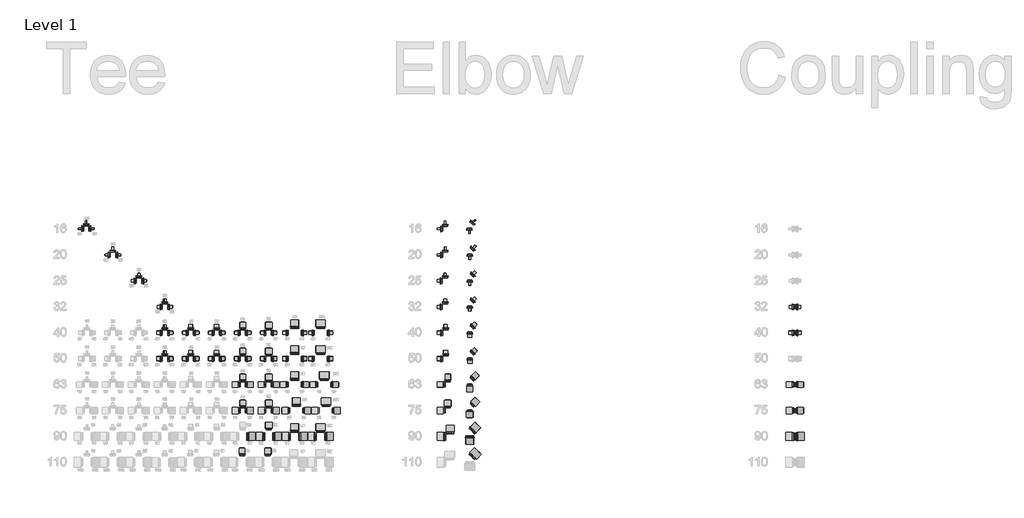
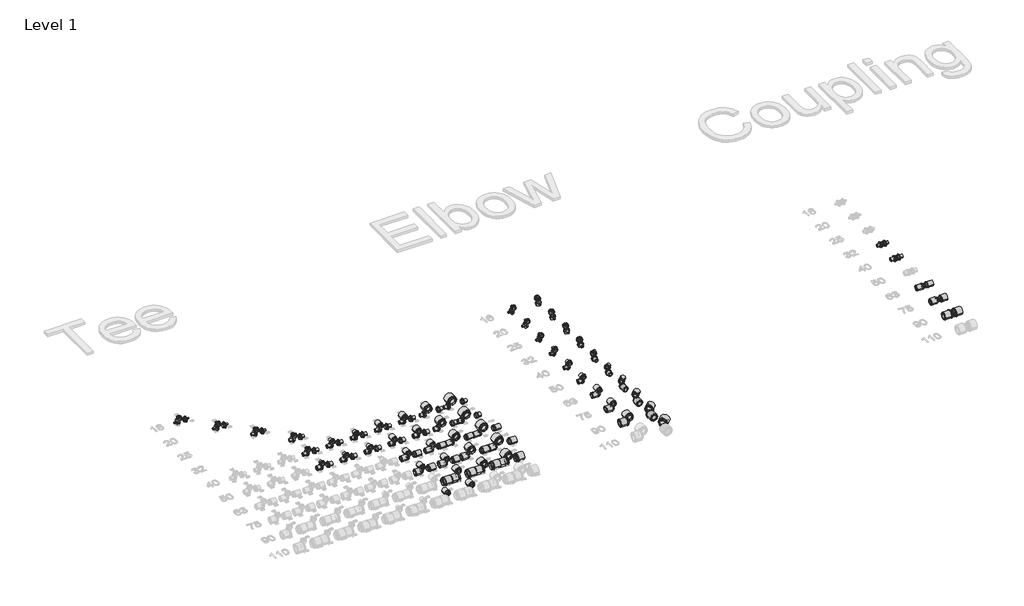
# One storey, part 3 of 58: 137 pipe fittings.
"""IFC4 building model written with IfcOpenShell, lengths in millimetres."""

from ifc_helpers import new_model, si_unit, origin, place, context, project, spatial, transform, mapped, element, save
from components import rs_adapter_8da40ca7, rs_adapter_b4bbd465, rs_adapter_f82712ed, rs_adapter_ef84fdb0, rs_adapter_c6cd646c, rs_adapter_ed761ce0, rs_adapter_634e7d73, rs_adapter_fc67200b, rs_adapter_b700a1d7, rs_adapter_1ad0a11d

model = new_model("IFC4")

# Units and contexts
model_context = context("Model", 3, world=origin())
ifc_project = project(units=[si_unit("LENGTHUNIT", "METRE", prefix="MILLI")], contexts=[model_context])

# Site, building, storey
site = spatial("IfcSite", under=ifc_project)
building = spatial("IfcBuilding", under=site)
storey = spatial("IfcBuildingStorey", under=building, Name="Level 1", Elevation=27.3876384)

# Pipe fittings
placement = place(None, origin())
rs_adapter_shape = rs_adapter_8da40ca7(model_context)
element("IfcPipeFitting", 1, ObjectType="RS Adapter : Superpipe RS Press Adapter", at=placement, inside=storey, context=model_context, shape_type="MappedRepresentation", body=[
    mapped(rs_adapter_shape, transform((15965.8568613, 16294.8081159, 27.3876384), x_axis=(0.0, 1.0000000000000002, 0.0), y_axis=(1.0000000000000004, 0.0, 0.0), z_axis=(0.0, 0.0, -1.0000000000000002))),
])
element("IfcPipeFitting", 2, ObjectType="RS Adapter : Superpipe RS Press Adapter", at=placement, inside=storey, context=model_context, shape_type="MappedRepresentation", body=[
    mapped(rs_adapter_shape, transform((15965.8568613, 17494.8081159, 27.3876384), x_axis=(0.0, 1.0000000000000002, 0.0), y_axis=(1.0000000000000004, 0.0, 0.0), z_axis=(0.0, 0.0, -1.0000000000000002))),
])
element("IfcPipeFitting", 3, ObjectType="RS Adapter : Superpipe RS Press Adapter", at=placement, inside=storey, context=model_context, shape_type="MappedRepresentation", body=[
    mapped(rs_adapter_shape, transform((15965.8568613, 17194.8081159, 27.3876384), x_axis=(0.0, 1.0000000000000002, 0.0), y_axis=(1.0000000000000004, 0.0, 0.0), z_axis=(0.0, 0.0, -1.0000000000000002))),
])
element("IfcPipeFitting", 4, ObjectType="RS Adapter : Superpipe RS Press Adapter", at=placement, inside=storey, context=model_context, shape_type="MappedRepresentation", body=[
    mapped(rs_adapter_shape, transform((16007.843642, 16894.8081159, 27.3876384), x_axis=(0.0, 1.0000000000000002, 0.0), y_axis=(1.0000000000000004, 0.0, 0.0), z_axis=(0.0, 0.0, -1.0000000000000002))),
])
element("IfcPipeFitting", 5, ObjectType="RS Adapter : Superpipe RS Press Adapter", at=placement, inside=storey, context=model_context, shape_type="MappedRepresentation", body=[
    mapped(rs_adapter_shape, transform((16027.8568613, 16594.8081159, 27.3876384), x_axis=(0.0, 1.0000000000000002, 0.0), y_axis=(1.0000000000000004, 0.0, 0.0), z_axis=(0.0, 0.0, -1.0000000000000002))),
])
element("IfcPipeFitting", 6, ObjectType="RS Adapter : Superpipe RS Press Adapter", at=placement, inside=storey, context=model_context, shape_type="MappedRepresentation", body=[
    mapped(rs_adapter_shape, transform((17713.0198773, 16009.6140039, 27.3876384), x_axis=(0.7071067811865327, 0.707106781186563, 0.0), y_axis=(-0.7071067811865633, 0.707106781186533, 0.0), z_axis=(0.0, 0.0, 1.0000000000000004))),
])
rs_adapter_2_shape = rs_adapter_b4bbd465(model_context)
element("IfcPipeFitting", 7, ObjectType="RS Adapter : Superpipe RS Press Adapter", at=placement, inside=storey, context=model_context, shape_type="MappedRepresentation", body=[
    mapped(rs_adapter_2_shape, transform((13226.6015571, 18650.4212972, 27.3876384), x_axis=(-1.0, 0.0, 0.0), y_axis=(0.0, 1.0, 0.0), z_axis=(0.0, 0.0, -1.0))),
])
element("IfcPipeFitting", 8, ObjectType="RS Adapter : Superpipe RS Press Adapter", at=placement, inside=storey, context=model_context, shape_type="MappedRepresentation", body=[
    mapped(rs_adapter_2_shape, transform((13257.6015571, 18681.4212972, 27.3876384), x_axis=(0.0, 1.0000000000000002, 0.0), y_axis=(1.0000000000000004, 0.0, 0.0), z_axis=(0.0, 0.0, -1.0000000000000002))),
])
element("IfcPipeFitting", 9, ObjectType="RS Adapter : Superpipe RS Press Adapter", at=placement, inside=storey, context=model_context, shape_type="MappedRepresentation", body=[
    mapped(rs_adapter_2_shape, transform((13288.6015571, 18650.4212972, 27.3876384), x_axis=(1.0000000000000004, 0.0, 0.0), y_axis=(0.0, -1.0000000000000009, 0.0), z_axis=(0.0, 0.0, -1.0000000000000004))),
])
element("IfcPipeFitting", 10, ObjectType="RS Adapter : Superpipe RS Press Adapter", at=placement, inside=storey, context=model_context, shape_type="MappedRepresentation", body=[
    mapped(rs_adapter_2_shape, transform((17405.8568613, 18677.8081159, 27.3876384), x_axis=(0.0, 1.000000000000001, 0.0), y_axis=(-1.0000000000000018, 0.0, 0.0), z_axis=(0.0, 0.0, 1.0000000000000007))),
])
element("IfcPipeFitting", 11, ObjectType="RS Adapter : Superpipe RS Press Adapter", at=placement, inside=storey, context=model_context, shape_type="MappedRepresentation", body=[
    mapped(rs_adapter_2_shape, transform((17374.8568613, 18646.8081159, 27.3876384), x_axis=(-1.0000000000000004, 0.0, 0.0), y_axis=(0.0, -1.0000000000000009, 0.0), z_axis=(0.0, 0.0, 1.0000000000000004))),
])
element("IfcPipeFitting", 12, ObjectType="RS Adapter : Superpipe RS Press Adapter", at=placement, inside=storey, context=model_context, shape_type="MappedRepresentation", body=[
    mapped(rs_adapter_2_shape, transform((17685.7955265, 18654.8896532, 27.3876384), x_axis=(0.0, -1.000000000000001, 0.0), y_axis=(1.0000000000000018, 0.0, 0.0), z_axis=(0.0, 0.0, 1.0000000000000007))),
])
element("IfcPipeFitting", 13, ObjectType="RS Adapter : Superpipe RS Press Adapter", at=placement, inside=storey, context=model_context, shape_type="MappedRepresentation", body=[
    mapped(rs_adapter_2_shape, transform((17709.5198773, 18709.6140039, 27.3876384), x_axis=(0.7071067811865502, 0.7071067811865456, 0.0), y_axis=(-0.7071067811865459, 0.7071067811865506, 0.0), z_axis=(0.0, 0.0, 1.0000000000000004))),
])
rs_adapter_3_shape = rs_adapter_f82712ed(model_context)
element("IfcPipeFitting", 14, ObjectType="RS Adapter : Superpipe RS Press Adapter", at=placement, inside=storey, context=model_context, shape_type="MappedRepresentation", body=[
    mapped(rs_adapter_3_shape, transform((13534.8568613, 18346.8081159, 27.3876384), x_axis=(-1.0, 0.0, 0.0), y_axis=(0.0, 1.0, 0.0), z_axis=(0.0, 0.0, -1.0))),
])
element("IfcPipeFitting", 15, ObjectType="RS Adapter : Superpipe RS Press Adapter", at=placement, inside=storey, context=model_context, shape_type="MappedRepresentation", body=[
    mapped(rs_adapter_3_shape, transform((13565.8568613, 18377.8081159, 27.3876384), x_axis=(0.0, 1.0000000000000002, 0.0), y_axis=(1.0000000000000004, 0.0, 0.0), z_axis=(0.0, 0.0, -1.0000000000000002))),
])
element("IfcPipeFitting", 16, ObjectType="RS Adapter : Superpipe RS Press Adapter", at=placement, inside=storey, context=model_context, shape_type="MappedRepresentation", body=[
    mapped(rs_adapter_3_shape, transform((13596.8568613, 18346.8081159, 27.3876384), x_axis=(1.0000000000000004, 0.0, 0.0), y_axis=(0.0, -1.0000000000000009, 0.0), z_axis=(0.0, 0.0, -1.0000000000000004))),
])
element("IfcPipeFitting", 17, ObjectType="RS Adapter : Superpipe RS Press Adapter", at=placement, inside=storey, context=model_context, shape_type="MappedRepresentation", body=[
    mapped(rs_adapter_3_shape, transform((17406.8568613, 18377.8081159, 27.3876384), x_axis=(0.0, 1.000000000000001, 0.0), y_axis=(-1.0000000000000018, 0.0, 0.0), z_axis=(0.0, 0.0, 1.0000000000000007))),
])
element("IfcPipeFitting", 18, ObjectType="RS Adapter : Superpipe RS Press Adapter", at=placement, inside=storey, context=model_context, shape_type="MappedRepresentation", body=[
    mapped(rs_adapter_3_shape, transform((17375.8568613, 18346.8081159, 27.3876384), x_axis=(-1.0000000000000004, 0.0, 0.0), y_axis=(0.0, -1.0000000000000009, 0.0), z_axis=(0.0, 0.0, 1.0000000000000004))),
])
element("IfcPipeFitting", 19, ObjectType="RS Adapter : Superpipe RS Press Adapter", at=placement, inside=storey, context=model_context, shape_type="MappedRepresentation", body=[
    mapped(rs_adapter_3_shape, transform((17689.2955265, 18354.8896532, 27.3876384), x_axis=(0.0, -1.000000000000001, 0.0), y_axis=(1.0000000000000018, 0.0, 0.0), z_axis=(0.0, 0.0, 1.0000000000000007))),
])
element("IfcPipeFitting", 20, ObjectType="RS Adapter : Superpipe RS Press Adapter", at=placement, inside=storey, context=model_context, shape_type="MappedRepresentation", body=[
    mapped(rs_adapter_3_shape, transform((17713.0198773, 18409.6140039, 27.3876384), x_axis=(0.7071067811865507, 0.7071067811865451, 0.0), y_axis=(-0.7071067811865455, 0.707106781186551, 0.0), z_axis=(0.0, 0.0, 1.0000000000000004))),
])
rs_adapter_4_shape = rs_adapter_ef84fdb0(model_context)
element("IfcPipeFitting", 21, ObjectType="RS Adapter : Superpipe RS Press Adapter", at=placement, inside=storey, context=model_context, shape_type="MappedRepresentation", body=[
    mapped(rs_adapter_4_shape, transform((13834.8568613, 18046.8081159, 27.3876384), x_axis=(-1.0, 0.0, 0.0), y_axis=(0.0, 1.0, 0.0), z_axis=(0.0, 0.0, -1.0))),
])
element("IfcPipeFitting", 22, ObjectType="RS Adapter : Superpipe RS Press Adapter", at=placement, inside=storey, context=model_context, shape_type="MappedRepresentation", body=[
    mapped(rs_adapter_4_shape, transform((13865.8568613, 18077.8081159, 27.3876384), x_axis=(0.0, 1.0000000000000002, 0.0), y_axis=(1.0000000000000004, 0.0, 0.0), z_axis=(0.0, 0.0, -1.0000000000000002))),
])
element("IfcPipeFitting", 23, ObjectType="RS Adapter : Superpipe RS Press Adapter", at=placement, inside=storey, context=model_context, shape_type="MappedRepresentation", body=[
    mapped(rs_adapter_4_shape, transform((13896.8568613, 18046.8081159, 27.3876384), x_axis=(1.0000000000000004, 0.0, 0.0), y_axis=(0.0, -1.0000000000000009, 0.0), z_axis=(0.0, 0.0, -1.0000000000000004))),
])
element("IfcPipeFitting", 24, ObjectType="RS Adapter : Superpipe RS Press Adapter", at=placement, inside=storey, context=model_context, shape_type="MappedRepresentation", body=[
    mapped(rs_adapter_4_shape, transform((17403.8568613, 18077.8081159, 27.3876384), x_axis=(0.0, 1.000000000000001, 0.0), y_axis=(-1.0000000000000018, 0.0, 0.0), z_axis=(0.0, 0.0, 1.0000000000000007))),
])
element("IfcPipeFitting", 25, ObjectType="RS Adapter : Superpipe RS Press Adapter", at=placement, inside=storey, context=model_context, shape_type="MappedRepresentation", body=[
    mapped(rs_adapter_4_shape, transform((17372.8568613, 18046.8081159, 27.3876384), x_axis=(-1.0000000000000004, 0.0, 0.0), y_axis=(0.0, -1.0000000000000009, 0.0), z_axis=(0.0, 0.0, 1.0000000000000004))),
])
element("IfcPipeFitting", 26, ObjectType="RS Adapter : Superpipe RS Press Adapter", at=placement, inside=storey, context=model_context, shape_type="MappedRepresentation", body=[
    mapped(rs_adapter_4_shape, transform((17689.2955265, 18054.8896532, 27.3876384), x_axis=(0.0, -1.0000000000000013, 0.0), y_axis=(1.0000000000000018, 0.0, 0.0), z_axis=(0.0, 0.0, 1.0000000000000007))),
])
element("IfcPipeFitting", 27, ObjectType="RS Adapter : Superpipe RS Press Adapter", at=placement, inside=storey, context=model_context, shape_type="MappedRepresentation", body=[
    mapped(rs_adapter_4_shape, transform((17713.0198773, 18109.6140039, 27.3876384), x_axis=(0.7071067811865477, 0.7071067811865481, 0.0), y_axis=(-0.7071067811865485, 0.707106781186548, 0.0), z_axis=(0.0, 0.0, 1.0000000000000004))),
])
rs_adapter_5_shape = rs_adapter_c6cd646c(model_context)
element("IfcPipeFitting", 28, ObjectType="RS Adapter : Superpipe RS Press Adapter", at=placement, inside=storey, context=model_context, shape_type="MappedRepresentation", body=[
    mapped(rs_adapter_5_shape, transform((15113.8568613, 16246.8081159, 27.3876384), x_axis=(1.0000000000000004, 0.0, 0.0), y_axis=(0.0, -1.0000000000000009, 0.0), z_axis=(0.0, 0.0, -1.0000000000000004))),
])
element("IfcPipeFitting", 29, ObjectType="RS Adapter : Superpipe RS Press Adapter", at=placement, inside=storey, context=model_context, shape_type="MappedRepresentation", body=[
    mapped(rs_adapter_5_shape, transform((15317.8568613, 16246.8081159, 27.3876384), x_axis=(-1.0, 0.0, 0.0), y_axis=(0.0, 1.0, 0.0), z_axis=(0.0, 0.0, -1.0))),
])
element("IfcPipeFitting", 30, ObjectType="RS Adapter : Superpipe RS Press Adapter", at=placement, inside=storey, context=model_context, shape_type="MappedRepresentation", body=[
    mapped(rs_adapter_5_shape, transform((15413.8568613, 16246.8081159, 27.3876384), x_axis=(1.0000000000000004, 0.0, 0.0), y_axis=(0.0, -1.0000000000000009, 0.0), z_axis=(0.0, 0.0, -1.0000000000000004))),
])
element("IfcPipeFitting", 31, ObjectType="RS Adapter : Superpipe RS Press Adapter", at=placement, inside=storey, context=model_context, shape_type="MappedRepresentation", body=[
    mapped(rs_adapter_5_shape, transform((15617.8568613, 16246.8081159, 27.3876384), x_axis=(-1.0, 0.0, 0.0), y_axis=(0.0, 1.0, 0.0), z_axis=(0.0, 0.0, -1.0))),
])
element("IfcPipeFitting", 32, ObjectType="RS Adapter : Superpipe RS Press Adapter", at=placement, inside=storey, context=model_context, shape_type="MappedRepresentation", body=[
    mapped(rs_adapter_5_shape, transform((15665.8568613, 16294.8081159, 27.3876384), x_axis=(0.0, 1.0000000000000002, 0.0), y_axis=(1.0000000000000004, 0.0, 0.0), z_axis=(0.0, 0.0, -1.0000000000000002))),
])
element("IfcPipeFitting", 33, ObjectType="RS Adapter : Superpipe RS Press Adapter", at=placement, inside=storey, context=model_context, shape_type="MappedRepresentation", body=[
    mapped(rs_adapter_5_shape, transform((15713.8568613, 16246.8081159, 27.3876384), x_axis=(1.0000000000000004, 0.0, 0.0), y_axis=(0.0, -1.0000000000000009, 0.0), z_axis=(0.0, 0.0, -1.0000000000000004))),
])
element("IfcPipeFitting", 34, ObjectType="RS Adapter : Superpipe RS Press Adapter", at=placement, inside=storey, context=model_context, shape_type="MappedRepresentation", body=[
    mapped(rs_adapter_5_shape, transform((15917.8568613, 16246.8081159, 27.3876384), x_axis=(-1.0, 0.0, 0.0), y_axis=(0.0, 1.0, 0.0), z_axis=(0.0, 0.0, -1.0))),
])
element("IfcPipeFitting", 35, ObjectType="RS Adapter : Superpipe RS Press Adapter", at=placement, inside=storey, context=model_context, shape_type="MappedRepresentation", body=[
    mapped(rs_adapter_5_shape, transform((16013.8568613, 16246.8081159, 27.3876384), x_axis=(1.0000000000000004, 0.0, 0.0), y_axis=(0.0, -1.0000000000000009, 0.0), z_axis=(0.0, 0.0, -1.0000000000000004))),
])
element("IfcPipeFitting", 36, ObjectType="RS Adapter : Superpipe RS Press Adapter", at=placement, inside=storey, context=model_context, shape_type="MappedRepresentation", body=[
    mapped(rs_adapter_5_shape, transform((15685.8568613, 16594.8081159, 27.3876384), x_axis=(0.0, 1.0000000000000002, 0.0), y_axis=(1.0000000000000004, 0.0, 0.0), z_axis=(0.0, 0.0, -1.0000000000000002))),
])
element("IfcPipeFitting", 37, ObjectType="RS Adapter : Superpipe RS Press Adapter", at=placement, inside=storey, context=model_context, shape_type="MappedRepresentation", body=[
    mapped(rs_adapter_5_shape, transform((15665.8568613, 17494.8081159, 27.3876384), x_axis=(0.0, 1.0000000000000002, 0.0), y_axis=(1.0000000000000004, 0.0, 0.0), z_axis=(0.0, 0.0, -1.0000000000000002))),
])
element("IfcPipeFitting", 38, ObjectType="RS Adapter : Superpipe RS Press Adapter", at=placement, inside=storey, context=model_context, shape_type="MappedRepresentation", body=[
    mapped(rs_adapter_5_shape, transform((15665.8568613, 17194.8081159, 27.3876384), x_axis=(0.0, 1.0000000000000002, 0.0), y_axis=(1.0000000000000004, 0.0, 0.0), z_axis=(0.0, 0.0, -1.0000000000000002))),
])
element("IfcPipeFitting", 39, ObjectType="RS Adapter : Superpipe RS Press Adapter", at=placement, inside=storey, context=model_context, shape_type="MappedRepresentation", body=[
    mapped(rs_adapter_5_shape, transform((15665.8568613, 16894.8081159, 27.3876384), x_axis=(0.0, 1.0000000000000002, 0.0), y_axis=(1.0000000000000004, 0.0, 0.0), z_axis=(0.0, 0.0, -1.0000000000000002))),
])
element("IfcPipeFitting", 40, ObjectType="RS Adapter : Superpipe RS Press Adapter", at=placement, inside=storey, context=model_context, shape_type="MappedRepresentation", body=[
    mapped(rs_adapter_5_shape, transform((21437.9646899, 16246.8081159, 27.3876384), x_axis=(-1.0000000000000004, 0.0, 0.0), y_axis=(0.0, 1.0000000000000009, 0.0), z_axis=(0.0, 0.0, -1.0000000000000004))),
])
element("IfcPipeFitting", 41, ObjectType="RS Adapter : Superpipe RS Press Adapter", at=placement, inside=storey, context=model_context, shape_type="MappedRepresentation", body=[
    mapped(rs_adapter_5_shape, transform((21455.9646899, 16246.8081159, 27.3876384), x_axis=(1.0000000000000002, 0.0, 0.0), y_axis=(0.0, -1.0000000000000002, 0.0), z_axis=(0.0, 0.0, -1.0))),
])
element("IfcPipeFitting", 42, ObjectType="RS Adapter : Superpipe RS Press Adapter", at=placement, inside=storey, context=model_context, shape_type="MappedRepresentation", body=[
    mapped(rs_adapter_5_shape, transform((17461.3568613, 16277.8081159, 27.3876384), x_axis=(0.0, 1.000000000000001, 0.0), y_axis=(-1.0000000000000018, 0.0, 0.0), z_axis=(0.0, 0.0, 1.0000000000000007))),
])
element("IfcPipeFitting", 43, ObjectType="RS Adapter : Superpipe RS Press Adapter", at=placement, inside=storey, context=model_context, shape_type="MappedRepresentation", body=[
    mapped(rs_adapter_5_shape, transform((17413.3568613, 16246.8081159, 27.3876384), x_axis=(-1.0000000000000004, 0.0, 0.0), y_axis=(0.0, -1.0000000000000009, 0.0), z_axis=(0.0, 0.0, 1.0000000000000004))),
])
element("IfcPipeFitting", 44, ObjectType="RS Adapter : Superpipe RS Press Adapter", at=placement, inside=storey, context=model_context, shape_type="MappedRepresentation", body=[
    mapped(rs_adapter_5_shape, transform((17689.2955265, 16254.8896532, 27.3876384), x_axis=(0.0, -1.000000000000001, 0.0), y_axis=(1.0000000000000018, 0.0, 0.0), z_axis=(0.0, 0.0, 1.0000000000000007))),
])
element("IfcPipeFitting", 45, ObjectType="RS Adapter : Superpipe RS Press Adapter", at=placement, inside=storey, context=model_context, shape_type="MappedRepresentation", body=[
    mapped(rs_adapter_5_shape, transform((17713.0198773, 16309.6140039, 27.3876384), x_axis=(0.7071067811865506, 0.7071067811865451, 0.0), y_axis=(-0.7071067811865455, 0.7071067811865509, 0.0), z_axis=(0.0, 0.0, 1.0000000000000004))),
])
rs_adapter_6_shape = rs_adapter_ed761ce0(model_context)
element("IfcPipeFitting", 46, ObjectType="RS Adapter : Superpipe RS Press Adapter", at=placement, inside=storey, context=model_context, shape_type="MappedRepresentation", body=[
    mapped(rs_adapter_6_shape, transform((14134.8568613, 17746.8081159, 27.3876384), x_axis=(-1.0, 0.0, 0.0), y_axis=(0.0, 1.0, 0.0), z_axis=(0.0, 0.0, -1.0))),
])
element("IfcPipeFitting", 47, ObjectType="RS Adapter : Superpipe RS Press Adapter", at=placement, inside=storey, context=model_context, shape_type="MappedRepresentation", body=[
    mapped(rs_adapter_6_shape, transform((14165.8568613, 17777.8081159, 27.3876384), x_axis=(0.0, 1.0000000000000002, 0.0), y_axis=(1.0000000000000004, 0.0, 0.0), z_axis=(0.0, 0.0, -1.0000000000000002))),
])
element("IfcPipeFitting", 48, ObjectType="RS Adapter : Superpipe RS Press Adapter", at=placement, inside=storey, context=model_context, shape_type="MappedRepresentation", body=[
    mapped(rs_adapter_6_shape, transform((14196.8568613, 17746.8081159, 27.3876384), x_axis=(1.0000000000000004, 0.0, 0.0), y_axis=(0.0, -1.0000000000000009, 0.0), z_axis=(0.0, 0.0, -1.0000000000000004))),
])
element("IfcPipeFitting", 49, ObjectType="RS Adapter : Superpipe RS Press Adapter", at=placement, inside=storey, context=model_context, shape_type="MappedRepresentation", body=[
    mapped(rs_adapter_6_shape, transform((14165.8568613, 17477.8081159, 27.3876384), x_axis=(0.0, 1.0000000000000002, 0.0), y_axis=(1.0000000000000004, 0.0, 0.0), z_axis=(0.0, 0.0, -1.0000000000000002))),
])
element("IfcPipeFitting", 50, ObjectType="RS Adapter : Superpipe RS Press Adapter", at=placement, inside=storey, context=model_context, shape_type="MappedRepresentation", body=[
    mapped(rs_adapter_6_shape, transform((14165.8568613, 17177.8081159, 27.3876384), x_axis=(0.0, 1.0000000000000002, 0.0), y_axis=(1.0000000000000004, 0.0, 0.0), z_axis=(0.0, 0.0, -1.0000000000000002))),
])
element("IfcPipeFitting", 51, ObjectType="RS Adapter : Superpipe RS Press Adapter", at=placement, inside=storey, context=model_context, shape_type="MappedRepresentation", body=[
    mapped(rs_adapter_6_shape, transform((21455.9646899, 17746.8081159, 27.3876384), x_axis=(1.0000000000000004, 0.0, 0.0), y_axis=(0.0, -1.0000000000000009, 0.0), z_axis=(0.0, 0.0, -1.0000000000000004))),
])
element("IfcPipeFitting", 52, ObjectType="RS Adapter : Superpipe RS Press Adapter", at=placement, inside=storey, context=model_context, shape_type="MappedRepresentation", body=[
    mapped(rs_adapter_6_shape, transform((21437.9646899, 17746.8081159, 27.3876384), x_axis=(-1.0000000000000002, 0.0, 0.0), y_axis=(0.0, 1.0000000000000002, 0.0), z_axis=(0.0, 0.0, -1.0))),
])
element("IfcPipeFitting", 53, ObjectType="RS Adapter : Superpipe RS Press Adapter", at=placement, inside=storey, context=model_context, shape_type="MappedRepresentation", body=[
    mapped(rs_adapter_6_shape, transform((17403.8568613, 17777.8081159, 27.3876384), x_axis=(0.0, 1.000000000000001, 0.0), y_axis=(-1.0000000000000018, 0.0, 0.0), z_axis=(0.0, 0.0, 1.0000000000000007))),
])
element("IfcPipeFitting", 54, ObjectType="RS Adapter : Superpipe RS Press Adapter", at=placement, inside=storey, context=model_context, shape_type="MappedRepresentation", body=[
    mapped(rs_adapter_6_shape, transform((17372.8568613, 17746.8081159, 27.3876384), x_axis=(-1.0000000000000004, 0.0, 0.0), y_axis=(0.0, -1.0000000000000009, 0.0), z_axis=(0.0, 0.0, 1.0000000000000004))),
])
element("IfcPipeFitting", 55, ObjectType="RS Adapter : Superpipe RS Press Adapter", at=placement, inside=storey, context=model_context, shape_type="MappedRepresentation", body=[
    mapped(rs_adapter_6_shape, transform((17689.2955265, 17754.8896532, 27.3876384), x_axis=(0.0, -1.000000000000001, 0.0), y_axis=(1.0000000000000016, 0.0, 0.0), z_axis=(0.0, 0.0, 1.0000000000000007))),
])
element("IfcPipeFitting", 56, ObjectType="RS Adapter : Superpipe RS Press Adapter", at=placement, inside=storey, context=model_context, shape_type="MappedRepresentation", body=[
    mapped(rs_adapter_6_shape, transform((17713.0198773, 17809.6140039, 27.3876384), x_axis=(0.7071067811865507, 0.707106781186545, 0.0), y_axis=(-0.7071067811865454, 0.707106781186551, 0.0), z_axis=(0.0, 0.0, 1.0000000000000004))),
])
rs_adapter_7_shape = rs_adapter_634e7d73(model_context)
element("IfcPipeFitting", 57, ObjectType="RS Adapter : Superpipe RS Press Adapter", at=placement, inside=storey, context=model_context, shape_type="MappedRepresentation", body=[
    mapped(rs_adapter_7_shape, transform((14434.8568613, 17446.8081159, 27.3876384), x_axis=(-1.0, 0.0, 0.0), y_axis=(0.0, 1.0, 0.0), z_axis=(0.0, 0.0, -1.0))),
])
element("IfcPipeFitting", 58, ObjectType="RS Adapter : Superpipe RS Press Adapter", at=placement, inside=storey, context=model_context, shape_type="MappedRepresentation", body=[
    mapped(rs_adapter_7_shape, transform((14465.8568613, 17477.8081159, 27.3876384), x_axis=(0.0, 1.0000000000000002, 0.0), y_axis=(1.0000000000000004, 0.0, 0.0), z_axis=(0.0, 0.0, -1.0000000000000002))),
])
element("IfcPipeFitting", 59, ObjectType="RS Adapter : Superpipe RS Press Adapter", at=placement, inside=storey, context=model_context, shape_type="MappedRepresentation", body=[
    mapped(rs_adapter_7_shape, transform((14496.8568613, 17446.8081159, 27.3876384), x_axis=(1.0000000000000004, 0.0, 0.0), y_axis=(0.0, -1.0000000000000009, 0.0), z_axis=(0.0, 0.0, -1.0000000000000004))),
])
element("IfcPipeFitting", 60, ObjectType="RS Adapter : Superpipe RS Press Adapter", at=placement, inside=storey, context=model_context, shape_type="MappedRepresentation", body=[
    mapped(rs_adapter_7_shape, transform((14134.8568613, 17446.8081159, 27.3876384), x_axis=(-1.0, 0.0, 0.0), y_axis=(0.0, 1.0, 0.0), z_axis=(0.0, 0.0, -1.0))),
])
element("IfcPipeFitting", 61, ObjectType="RS Adapter : Superpipe RS Press Adapter", at=placement, inside=storey, context=model_context, shape_type="MappedRepresentation", body=[
    mapped(rs_adapter_7_shape, transform((14196.8568613, 17446.8081159, 27.3876384), x_axis=(1.0000000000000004, 0.0, 0.0), y_axis=(0.0, -1.0000000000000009, 0.0), z_axis=(0.0, 0.0, -1.0000000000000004))),
])
element("IfcPipeFitting", 62, ObjectType="RS Adapter : Superpipe RS Press Adapter", at=placement, inside=storey, context=model_context, shape_type="MappedRepresentation", body=[
    mapped(rs_adapter_7_shape, transform((14734.8568613, 17446.8081159, 27.3876384), x_axis=(-1.0, 0.0, 0.0), y_axis=(0.0, 1.0, 0.0), z_axis=(0.0, 0.0, -1.0))),
])
element("IfcPipeFitting", 63, ObjectType="RS Adapter : Superpipe RS Press Adapter", at=placement, inside=storey, context=model_context, shape_type="MappedRepresentation", body=[
    mapped(rs_adapter_7_shape, transform((14796.8568613, 17446.8081159, 27.3876384), x_axis=(1.0000000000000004, 0.0, 0.0), y_axis=(0.0, -1.0000000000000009, 0.0), z_axis=(0.0, 0.0, -1.0000000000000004))),
])
element("IfcPipeFitting", 64, ObjectType="RS Adapter : Superpipe RS Press Adapter", at=placement, inside=storey, context=model_context, shape_type="MappedRepresentation", body=[
    mapped(rs_adapter_7_shape, transform((15034.8568613, 17446.8081159, 27.3876384), x_axis=(-1.0, 0.0, 0.0), y_axis=(0.0, 1.0, 0.0), z_axis=(0.0, 0.0, -1.0))),
])
element("IfcPipeFitting", 65, ObjectType="RS Adapter : Superpipe RS Press Adapter", at=placement, inside=storey, context=model_context, shape_type="MappedRepresentation", body=[
    mapped(rs_adapter_7_shape, transform((15096.8568613, 17446.8081159, 27.3876384), x_axis=(1.0000000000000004, 0.0, 0.0), y_axis=(0.0, -1.0000000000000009, 0.0), z_axis=(0.0, 0.0, -1.0000000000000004))),
])
element("IfcPipeFitting", 66, ObjectType="RS Adapter : Superpipe RS Press Adapter", at=placement, inside=storey, context=model_context, shape_type="MappedRepresentation", body=[
    mapped(rs_adapter_7_shape, transform((15334.8568613, 17446.8081159, 27.3876384), x_axis=(-1.0, 0.0, 0.0), y_axis=(0.0, 1.0, 0.0), z_axis=(0.0, 0.0, -1.0))),
])
element("IfcPipeFitting", 67, ObjectType="RS Adapter : Superpipe RS Press Adapter", at=placement, inside=storey, context=model_context, shape_type="MappedRepresentation", body=[
    mapped(rs_adapter_7_shape, transform((15396.8568613, 17446.8081159, 27.3876384), x_axis=(1.0000000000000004, 0.0, 0.0), y_axis=(0.0, -1.0000000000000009, 0.0), z_axis=(0.0, 0.0, -1.0000000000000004))),
])
element("IfcPipeFitting", 68, ObjectType="RS Adapter : Superpipe RS Press Adapter", at=placement, inside=storey, context=model_context, shape_type="MappedRepresentation", body=[
    mapped(rs_adapter_7_shape, transform((15590.8568613, 17446.8081159, 27.3876384), x_axis=(-1.0, 0.0, 0.0), y_axis=(0.0, 1.0, 0.0), z_axis=(0.0, 0.0, -1.0))),
])
element("IfcPipeFitting", 69, ObjectType="RS Adapter : Superpipe RS Press Adapter", at=placement, inside=storey, context=model_context, shape_type="MappedRepresentation", body=[
    mapped(rs_adapter_7_shape, transform((15740.8568613, 17446.8081159, 27.3876384), x_axis=(1.0000000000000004, 0.0, 0.0), y_axis=(0.0, -1.0000000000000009, 0.0), z_axis=(0.0, 0.0, -1.0000000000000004))),
])
element("IfcPipeFitting", 70, ObjectType="RS Adapter : Superpipe RS Press Adapter", at=placement, inside=storey, context=model_context, shape_type="MappedRepresentation", body=[
    mapped(rs_adapter_7_shape, transform((15890.8568613, 17446.8081159, 27.3876384), x_axis=(-1.0, 0.0, 0.0), y_axis=(0.0, 1.0, 0.0), z_axis=(0.0, 0.0, -1.0))),
])
element("IfcPipeFitting", 71, ObjectType="RS Adapter : Superpipe RS Press Adapter", at=placement, inside=storey, context=model_context, shape_type="MappedRepresentation", body=[
    mapped(rs_adapter_7_shape, transform((16040.8568613, 17446.8081159, 27.3876384), x_axis=(1.0000000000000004, 0.0, 0.0), y_axis=(0.0, -1.0000000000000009, 0.0), z_axis=(0.0, 0.0, -1.0000000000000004))),
])
element("IfcPipeFitting", 72, ObjectType="RS Adapter : Superpipe RS Press Adapter", at=placement, inside=storey, context=model_context, shape_type="MappedRepresentation", body=[
    mapped(rs_adapter_7_shape, transform((14465.8568613, 17177.8081159, 27.3876384), x_axis=(0.0, 1.0000000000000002, 0.0), y_axis=(1.0000000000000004, 0.0, 0.0), z_axis=(0.0, 0.0, -1.0000000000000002))),
])
element("IfcPipeFitting", 73, ObjectType="RS Adapter : Superpipe RS Press Adapter", at=placement, inside=storey, context=model_context, shape_type="MappedRepresentation", body=[
    mapped(rs_adapter_7_shape, transform((21455.9646899, 17446.8081159, 27.3876384), x_axis=(1.0000000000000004, 0.0, 0.0), y_axis=(0.0, -1.0000000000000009, 0.0), z_axis=(0.0, 0.0, -1.0000000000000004))),
])
element("IfcPipeFitting", 74, ObjectType="RS Adapter : Superpipe RS Press Adapter", at=placement, inside=storey, context=model_context, shape_type="MappedRepresentation", body=[
    mapped(rs_adapter_7_shape, transform((21437.9646899, 17446.8081159, 27.3876384), x_axis=(-1.0000000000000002, 0.0, 0.0), y_axis=(0.0, 1.0000000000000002, 0.0), z_axis=(0.0, 0.0, -1.0))),
])
element("IfcPipeFitting", 75, ObjectType="RS Adapter : Superpipe RS Press Adapter", at=placement, inside=storey, context=model_context, shape_type="MappedRepresentation", body=[
    mapped(rs_adapter_7_shape, transform((17409.8568613, 17477.8081159, 27.3876384), x_axis=(0.0, 1.000000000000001, 0.0), y_axis=(-1.0000000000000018, 0.0, 0.0), z_axis=(0.0, 0.0, 1.0000000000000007))),
])
element("IfcPipeFitting", 76, ObjectType="RS Adapter : Superpipe RS Press Adapter", at=placement, inside=storey, context=model_context, shape_type="MappedRepresentation", body=[
    mapped(rs_adapter_7_shape, transform((17378.8568613, 17446.8081159, 27.3876384), x_axis=(-1.0000000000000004, 0.0, 0.0), y_axis=(0.0, -1.0000000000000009, 0.0), z_axis=(0.0, 0.0, 1.0000000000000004))),
])
element("IfcPipeFitting", 77, ObjectType="RS Adapter : Superpipe RS Press Adapter", at=placement, inside=storey, context=model_context, shape_type="MappedRepresentation", body=[
    mapped(rs_adapter_7_shape, transform((17689.2955265, 17454.8896532, 27.3876384), x_axis=(0.0, -1.000000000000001, 0.0), y_axis=(1.0000000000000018, 0.0, 0.0), z_axis=(0.0, 0.0, 1.0000000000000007))),
])
element("IfcPipeFitting", 78, ObjectType="RS Adapter : Superpipe RS Press Adapter", at=placement, inside=storey, context=model_context, shape_type="MappedRepresentation", body=[
    mapped(rs_adapter_7_shape, transform((17713.0198773, 17509.6140039, 27.3876384), x_axis=(0.7071067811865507, 0.7071067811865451, 0.0), y_axis=(-0.7071067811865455, 0.707106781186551, 0.0), z_axis=(0.0, 0.0, 1.0000000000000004))),
])
rs_adapter_8_shape = rs_adapter_fc67200b(model_context)
element("IfcPipeFitting", 79, ObjectType="RS Adapter : Superpipe RS Press Adapter", at=placement, inside=storey, context=model_context, shape_type="MappedRepresentation", body=[
    mapped(rs_adapter_8_shape, transform((14734.8568613, 17146.8081159, 27.3876384), x_axis=(-1.0, 0.0, 0.0), y_axis=(0.0, 1.0, 0.0), z_axis=(0.0, 0.0, -1.0))),
])
element("IfcPipeFitting", 80, ObjectType="RS Adapter : Superpipe RS Press Adapter", at=placement, inside=storey, context=model_context, shape_type="MappedRepresentation", body=[
    mapped(rs_adapter_8_shape, transform((14765.8568613, 17177.8081159, 27.3876384), x_axis=(0.0, 1.0000000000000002, 0.0), y_axis=(1.0000000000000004, 0.0, 0.0), z_axis=(0.0, 0.0, -1.0000000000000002))),
])
element("IfcPipeFitting", 81, ObjectType="RS Adapter : Superpipe RS Press Adapter", at=placement, inside=storey, context=model_context, shape_type="MappedRepresentation", body=[
    mapped(rs_adapter_8_shape, transform((14796.8568613, 17146.8081159, 27.3876384), x_axis=(1.0000000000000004, 0.0, 0.0), y_axis=(0.0, -1.0000000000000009, 0.0), z_axis=(0.0, 0.0, -1.0000000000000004))),
])
element("IfcPipeFitting", 82, ObjectType="RS Adapter : Superpipe RS Press Adapter", at=placement, inside=storey, context=model_context, shape_type="MappedRepresentation", body=[
    mapped(rs_adapter_8_shape, transform((14765.8568613, 17477.8081159, 27.3876384), x_axis=(0.0, 1.0000000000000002, 0.0), y_axis=(1.0000000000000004, 0.0, 0.0), z_axis=(0.0, 0.0, -1.0000000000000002))),
])
element("IfcPipeFitting", 83, ObjectType="RS Adapter : Superpipe RS Press Adapter", at=placement, inside=storey, context=model_context, shape_type="MappedRepresentation", body=[
    mapped(rs_adapter_8_shape, transform((14134.8568613, 17146.8081159, 27.3876384), x_axis=(-1.0, 0.0, 0.0), y_axis=(0.0, 1.0, 0.0), z_axis=(0.0, 0.0, -1.0))),
])
element("IfcPipeFitting", 84, ObjectType="RS Adapter : Superpipe RS Press Adapter", at=placement, inside=storey, context=model_context, shape_type="MappedRepresentation", body=[
    mapped(rs_adapter_8_shape, transform((14196.8568613, 17146.8081159, 27.3876384), x_axis=(1.0000000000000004, 0.0, 0.0), y_axis=(0.0, -1.0000000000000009, 0.0), z_axis=(0.0, 0.0, -1.0000000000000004))),
])
element("IfcPipeFitting", 85, ObjectType="RS Adapter : Superpipe RS Press Adapter", at=placement, inside=storey, context=model_context, shape_type="MappedRepresentation", body=[
    mapped(rs_adapter_8_shape, transform((14434.8568613, 17146.8081159, 27.3876384), x_axis=(-1.0, 0.0, 0.0), y_axis=(0.0, 1.0, 0.0), z_axis=(0.0, 0.0, -1.0))),
])
element("IfcPipeFitting", 86, ObjectType="RS Adapter : Superpipe RS Press Adapter", at=placement, inside=storey, context=model_context, shape_type="MappedRepresentation", body=[
    mapped(rs_adapter_8_shape, transform((14496.8568613, 17146.8081159, 27.3876384), x_axis=(1.0000000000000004, 0.0, 0.0), y_axis=(0.0, -1.0000000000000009, 0.0), z_axis=(0.0, 0.0, -1.0000000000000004))),
])
element("IfcPipeFitting", 87, ObjectType="RS Adapter : Superpipe RS Press Adapter", at=placement, inside=storey, context=model_context, shape_type="MappedRepresentation", body=[
    mapped(rs_adapter_8_shape, transform((15034.8568613, 17146.8081159, 27.3876384), x_axis=(-1.0, 0.0, 0.0), y_axis=(0.0, 1.0, 0.0), z_axis=(0.0, 0.0, -1.0))),
])
element("IfcPipeFitting", 88, ObjectType="RS Adapter : Superpipe RS Press Adapter", at=placement, inside=storey, context=model_context, shape_type="MappedRepresentation", body=[
    mapped(rs_adapter_8_shape, transform((15096.8568613, 17146.8081159, 27.3876384), x_axis=(1.0000000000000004, 0.0, 0.0), y_axis=(0.0, -1.0000000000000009, 0.0), z_axis=(0.0, 0.0, -1.0000000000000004))),
])
element("IfcPipeFitting", 89, ObjectType="RS Adapter : Superpipe RS Press Adapter", at=placement, inside=storey, context=model_context, shape_type="MappedRepresentation", body=[
    mapped(rs_adapter_8_shape, transform((15334.8568613, 17146.8081159, 27.3876384), x_axis=(-1.0, 0.0, 0.0), y_axis=(0.0, 1.0, 0.0), z_axis=(0.0, 0.0, -1.0))),
])
element("IfcPipeFitting", 90, ObjectType="RS Adapter : Superpipe RS Press Adapter", at=placement, inside=storey, context=model_context, shape_type="MappedRepresentation", body=[
    mapped(rs_adapter_8_shape, transform((15396.8568613, 17146.8081159, 27.3876384), x_axis=(1.0000000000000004, 0.0, 0.0), y_axis=(0.0, -1.0000000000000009, 0.0), z_axis=(0.0, 0.0, -1.0000000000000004))),
])
element("IfcPipeFitting", 91, ObjectType="RS Adapter : Superpipe RS Press Adapter", at=placement, inside=storey, context=model_context, shape_type="MappedRepresentation", body=[
    mapped(rs_adapter_8_shape, transform((15590.8568613, 17146.8081159, 27.3876384), x_axis=(-1.0, 0.0, 0.0), y_axis=(0.0, 1.0, 0.0), z_axis=(0.0, 0.0, -1.0))),
])
element("IfcPipeFitting", 92, ObjectType="RS Adapter : Superpipe RS Press Adapter", at=placement, inside=storey, context=model_context, shape_type="MappedRepresentation", body=[
    mapped(rs_adapter_8_shape, transform((15740.8568613, 17146.8081159, 27.3876384), x_axis=(1.0000000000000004, 0.0, 0.0), y_axis=(0.0, -1.0000000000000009, 0.0), z_axis=(0.0, 0.0, -1.0000000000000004))),
])
element("IfcPipeFitting", 93, ObjectType="RS Adapter : Superpipe RS Press Adapter", at=placement, inside=storey, context=model_context, shape_type="MappedRepresentation", body=[
    mapped(rs_adapter_8_shape, transform((15890.8568613, 17146.8081159, 27.3876384), x_axis=(-1.0, 0.0, 0.0), y_axis=(0.0, 1.0, 0.0), z_axis=(0.0, 0.0, -1.0))),
])
element("IfcPipeFitting", 94, ObjectType="RS Adapter : Superpipe RS Press Adapter", at=placement, inside=storey, context=model_context, shape_type="MappedRepresentation", body=[
    mapped(rs_adapter_8_shape, transform((16040.8568613, 17146.8081159, 27.3876384), x_axis=(1.0000000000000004, 0.0, 0.0), y_axis=(0.0, -1.0000000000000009, 0.0), z_axis=(0.0, 0.0, -1.0000000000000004))),
])
element("IfcPipeFitting", 95, ObjectType="RS Adapter : Superpipe RS Press Adapter", at=placement, inside=storey, context=model_context, shape_type="MappedRepresentation", body=[
    mapped(rs_adapter_8_shape, transform((17409.8568613, 17177.8081159, 27.3876384), x_axis=(0.0, 1.000000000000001, 0.0), y_axis=(-1.0000000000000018, 0.0, 0.0), z_axis=(0.0, 0.0, 1.0000000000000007))),
])
element("IfcPipeFitting", 96, ObjectType="RS Adapter : Superpipe RS Press Adapter", at=placement, inside=storey, context=model_context, shape_type="MappedRepresentation", body=[
    mapped(rs_adapter_8_shape, transform((17378.8568613, 17146.8081159, 27.3876384), x_axis=(-1.0000000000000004, 0.0, 0.0), y_axis=(0.0, -1.0000000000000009, 0.0), z_axis=(0.0, 0.0, 1.0000000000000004))),
])
element("IfcPipeFitting", 97, ObjectType="RS Adapter : Superpipe RS Press Adapter", at=placement, inside=storey, context=model_context, shape_type="MappedRepresentation", body=[
    mapped(rs_adapter_8_shape, transform((17689.2955265, 17154.8896532, 27.3876384), x_axis=(0.0, -1.0000000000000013, 0.0), y_axis=(1.0000000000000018, 0.0, 0.0), z_axis=(0.0, 0.0, 1.0000000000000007))),
])
element("IfcPipeFitting", 98, ObjectType="RS Adapter : Superpipe RS Press Adapter", at=placement, inside=storey, context=model_context, shape_type="MappedRepresentation", body=[
    mapped(rs_adapter_8_shape, transform((17713.0198773, 17209.6140039, 27.3876384), x_axis=(0.7071067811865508, 0.707106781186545, 0.0), y_axis=(-0.7071067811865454, 0.7071067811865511, 0.0), z_axis=(0.0, 0.0, 1.0000000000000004))),
])
rs_adapter_9_shape = rs_adapter_b700a1d7(model_context)
element("IfcPipeFitting", 99, ObjectType="RS Adapter : Superpipe RS Press Adapter", at=placement, inside=storey, context=model_context, shape_type="MappedRepresentation", body=[
    mapped(rs_adapter_9_shape, transform((15365.8568613, 16321.8081159, 27.3876384), x_axis=(0.0, 1.0000000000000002, 0.0), y_axis=(1.0000000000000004, 0.0, 0.0), z_axis=(0.0, 0.0, -1.0000000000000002))),
])
element("IfcPipeFitting", 100, ObjectType="RS Adapter : Superpipe RS Press Adapter", at=placement, inside=storey, context=model_context, shape_type="MappedRepresentation", body=[
    mapped(rs_adapter_9_shape, transform((15365.8568613, 16877.8081159, 27.3876384), x_axis=(0.0, 1.0000000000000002, 0.0), y_axis=(1.0000000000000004, 0.0, 0.0), z_axis=(0.0, 0.0, -1.0000000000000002))),
])
element("IfcPipeFitting", 101, ObjectType="RS Adapter : Superpipe RS Press Adapter", at=placement, inside=storey, context=model_context, shape_type="MappedRepresentation", body=[
    mapped(rs_adapter_9_shape, transform((15610.8568613, 16546.8081159, 27.3876384), x_axis=(-1.0, 0.0, 0.0), y_axis=(0.0, 1.0, 0.0), z_axis=(0.0, 0.0, -1.0))),
])
element("IfcPipeFitting", 102, ObjectType="RS Adapter : Superpipe RS Press Adapter", at=placement, inside=storey, context=model_context, shape_type="MappedRepresentation", body=[
    mapped(rs_adapter_9_shape, transform((15760.8568613, 16546.8081159, 27.3876384), x_axis=(1.0000000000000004, 0.0, 0.0), y_axis=(0.0, -1.0000000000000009, 0.0), z_axis=(0.0, 0.0, -1.0000000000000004))),
])
element("IfcPipeFitting", 103, ObjectType="RS Adapter : Superpipe RS Press Adapter", at=placement, inside=storey, context=model_context, shape_type="MappedRepresentation", body=[
    mapped(rs_adapter_9_shape, transform((15365.8568613, 17477.8081159, 27.3876384), x_axis=(0.0, 1.0000000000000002, 0.0), y_axis=(1.0000000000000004, 0.0, 0.0), z_axis=(0.0, 0.0, -1.0000000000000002))),
])
element("IfcPipeFitting", 104, ObjectType="RS Adapter : Superpipe RS Press Adapter", at=placement, inside=storey, context=model_context, shape_type="MappedRepresentation", body=[
    mapped(rs_adapter_9_shape, transform((15365.8568613, 17177.8081159, 27.3876384), x_axis=(0.0, 1.0000000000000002, 0.0), y_axis=(1.0000000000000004, 0.0, 0.0), z_axis=(0.0, 0.0, -1.0000000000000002))),
])
element("IfcPipeFitting", 105, ObjectType="RS Adapter : Superpipe RS Press Adapter", at=placement, inside=storey, context=model_context, shape_type="MappedRepresentation", body=[
    mapped(rs_adapter_9_shape, transform((15034.8568613, 16546.8081159, 27.3876384), x_axis=(-1.0, 0.0, 0.0), y_axis=(0.0, 1.0, 0.0), z_axis=(0.0, 0.0, -1.0))),
])
element("IfcPipeFitting", 106, ObjectType="RS Adapter : Superpipe RS Press Adapter", at=placement, inside=storey, context=model_context, shape_type="MappedRepresentation", body=[
    mapped(rs_adapter_9_shape, transform((15096.8568613, 16546.8081159, 27.3876384), x_axis=(1.0000000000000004, 0.0, 0.0), y_axis=(0.0, -1.0000000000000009, 0.0), z_axis=(0.0, 0.0, -1.0000000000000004))),
])
element("IfcPipeFitting", 107, ObjectType="RS Adapter : Superpipe RS Press Adapter", at=placement, inside=storey, context=model_context, shape_type="MappedRepresentation", body=[
    mapped(rs_adapter_9_shape, transform((15334.8568613, 16546.8081159, 27.3876384), x_axis=(-1.0, 0.0, 0.0), y_axis=(0.0, 1.0, 0.0), z_axis=(0.0, 0.0, -1.0))),
])
element("IfcPipeFitting", 108, ObjectType="RS Adapter : Superpipe RS Press Adapter", at=placement, inside=storey, context=model_context, shape_type="MappedRepresentation", body=[
    mapped(rs_adapter_9_shape, transform((15365.8568613, 16577.8081159, 27.3876384), x_axis=(0.0, 1.0000000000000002, 0.0), y_axis=(1.0000000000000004, 0.0, 0.0), z_axis=(0.0, 0.0, -1.0000000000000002))),
])
element("IfcPipeFitting", 109, ObjectType="RS Adapter : Superpipe RS Press Adapter", at=placement, inside=storey, context=model_context, shape_type="MappedRepresentation", body=[
    mapped(rs_adapter_9_shape, transform((15396.8568613, 16546.8081159, 27.3876384), x_axis=(1.0000000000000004, 0.0, 0.0), y_axis=(0.0, -1.0000000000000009, 0.0), z_axis=(0.0, 0.0, -1.0000000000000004))),
])
element("IfcPipeFitting", 110, ObjectType="RS Adapter : Superpipe RS Press Adapter", at=placement, inside=storey, context=model_context, shape_type="MappedRepresentation", body=[
    mapped(rs_adapter_9_shape, transform((15952.8568613, 16546.8081159, 27.3876384), x_axis=(-1.0, 0.0, 0.0), y_axis=(0.0, 1.0, 0.0), z_axis=(0.0, 0.0, -1.0))),
])
element("IfcPipeFitting", 111, ObjectType="RS Adapter : Superpipe RS Press Adapter", at=placement, inside=storey, context=model_context, shape_type="MappedRepresentation", body=[
    mapped(rs_adapter_9_shape, transform((16102.8568613, 16546.8081159, 27.3876384), x_axis=(1.0000000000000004, 0.0, 0.0), y_axis=(0.0, -1.0000000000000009, 0.0), z_axis=(0.0, 0.0, -1.0000000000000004))),
])
element("IfcPipeFitting", 112, ObjectType="RS Adapter : Superpipe RS Press Adapter", at=placement, inside=storey, context=model_context, shape_type="MappedRepresentation", body=[
    mapped(rs_adapter_9_shape, transform((21455.9646899, 16546.8081159, 27.3876384), x_axis=(1.0000000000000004, 0.0, 0.0), y_axis=(0.0, -1.0000000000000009, 0.0), z_axis=(0.0, 0.0, -1.0000000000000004))),
])
element("IfcPipeFitting", 113, ObjectType="RS Adapter : Superpipe RS Press Adapter", at=placement, inside=storey, context=model_context, shape_type="MappedRepresentation", body=[
    mapped(rs_adapter_9_shape, transform((21437.9646899, 16546.8081159, 27.3876384), x_axis=(-1.0000000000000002, 0.0, 0.0), y_axis=(0.0, 1.0000000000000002, 0.0), z_axis=(0.0, 0.0, -1.0))),
])
element("IfcPipeFitting", 114, ObjectType="RS Adapter : Superpipe RS Press Adapter", at=placement, inside=storey, context=model_context, shape_type="MappedRepresentation", body=[
    mapped(rs_adapter_9_shape, transform((17436.3568613, 16577.8081159, 27.3876384), x_axis=(0.0, 1.000000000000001, 0.0), y_axis=(-1.0000000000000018, 0.0, 0.0), z_axis=(0.0, 0.0, 1.0000000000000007))),
])
element("IfcPipeFitting", 115, ObjectType="RS Adapter : Superpipe RS Press Adapter", at=placement, inside=storey, context=model_context, shape_type="MappedRepresentation", body=[
    mapped(rs_adapter_9_shape, transform((17405.3568613, 16546.8081159, 27.3876384), x_axis=(-1.0000000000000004, 0.0, 0.0), y_axis=(0.0, -1.0000000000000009, 0.0), z_axis=(0.0, 0.0, 1.0000000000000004))),
])
element("IfcPipeFitting", 116, ObjectType="RS Adapter : Superpipe RS Press Adapter", at=placement, inside=storey, context=model_context, shape_type="MappedRepresentation", body=[
    mapped(rs_adapter_9_shape, transform((17689.2955265, 16554.8896532, 27.3876384), x_axis=(0.0, -1.000000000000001, 0.0), y_axis=(1.0000000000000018, 0.0, 0.0), z_axis=(0.0, 0.0, 1.0000000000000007))),
])
element("IfcPipeFitting", 117, ObjectType="RS Adapter : Superpipe RS Press Adapter", at=placement, inside=storey, context=model_context, shape_type="MappedRepresentation", body=[
    mapped(rs_adapter_9_shape, transform((17713.0198773, 16609.6140039, 27.3876384), x_axis=(0.7071067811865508, 0.7071067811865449, 0.0), y_axis=(-0.7071067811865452, 0.7071067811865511, 0.0), z_axis=(0.0, 0.0, 1.0000000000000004))),
])
element("IfcPipeFitting", 118, ObjectType="RS Adapter : Superpipe RS Press Adapter", at=placement, inside=storey, context=model_context, shape_type="MappedRepresentation", body=[
    mapped(rs_adapter_9_shape, transform((15357.2392827, 16021.8081159, 27.3876384), x_axis=(0.0, 1.0000000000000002, 0.0), y_axis=(-1.0000000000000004, 0.0, 0.0), z_axis=(0.0, 0.0, 1.0000000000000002))),
])
rs_adapter_10_shape = rs_adapter_1ad0a11d(model_context)
element("IfcPipeFitting", 119, ObjectType="RS Adapter : Superpipe RS Press Adapter", at=placement, inside=storey, context=model_context, shape_type="MappedRepresentation", body=[
    mapped(rs_adapter_10_shape, transform((15034.8568613, 16846.8081159, 27.3876384), x_axis=(-1.0, 0.0, 0.0), y_axis=(0.0, 1.0, 0.0), z_axis=(0.0, 0.0, -1.0))),
])
element("IfcPipeFitting", 120, ObjectType="RS Adapter : Superpipe RS Press Adapter", at=placement, inside=storey, context=model_context, shape_type="MappedRepresentation", body=[
    mapped(rs_adapter_10_shape, transform((15065.8568613, 16877.8081159, 27.3876384), x_axis=(0.0, 1.0000000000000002, 0.0), y_axis=(1.0000000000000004, 0.0, 0.0), z_axis=(0.0, 0.0, -1.0000000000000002))),
])
element("IfcPipeFitting", 121, ObjectType="RS Adapter : Superpipe RS Press Adapter", at=placement, inside=storey, context=model_context, shape_type="MappedRepresentation", body=[
    mapped(rs_adapter_10_shape, transform((15096.8568613, 16846.8081159, 27.3876384), x_axis=(1.0000000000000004, 0.0, 0.0), y_axis=(0.0, -1.0000000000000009, 0.0), z_axis=(0.0, 0.0, -1.0000000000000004))),
])
element("IfcPipeFitting", 122, ObjectType="RS Adapter : Superpipe RS Press Adapter", at=placement, inside=storey, context=model_context, shape_type="MappedRepresentation", body=[
    mapped(rs_adapter_10_shape, transform((15334.8568613, 16846.8081159, 27.3876384), x_axis=(-1.0, 0.0, 0.0), y_axis=(0.0, 1.0, 0.0), z_axis=(0.0, 0.0, -1.0))),
])
element("IfcPipeFitting", 123, ObjectType="RS Adapter : Superpipe RS Press Adapter", at=placement, inside=storey, context=model_context, shape_type="MappedRepresentation", body=[
    mapped(rs_adapter_10_shape, transform((15396.8568613, 16846.8081159, 27.3876384), x_axis=(1.0000000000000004, 0.0, 0.0), y_axis=(0.0, -1.0000000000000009, 0.0), z_axis=(0.0, 0.0, -1.0000000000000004))),
])
element("IfcPipeFitting", 124, ObjectType="RS Adapter : Superpipe RS Press Adapter", at=placement, inside=storey, context=model_context, shape_type="MappedRepresentation", body=[
    mapped(rs_adapter_10_shape, transform((15065.8568613, 17477.8081159, 27.3876384), x_axis=(0.0, 1.0000000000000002, 0.0), y_axis=(1.0000000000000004, 0.0, 0.0), z_axis=(0.0, 0.0, -1.0000000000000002))),
])
element("IfcPipeFitting", 125, ObjectType="RS Adapter : Superpipe RS Press Adapter", at=placement, inside=storey, context=model_context, shape_type="MappedRepresentation", body=[
    mapped(rs_adapter_10_shape, transform((15065.8568613, 17177.8081159, 27.3876384), x_axis=(0.0, 1.0000000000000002, 0.0), y_axis=(1.0000000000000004, 0.0, 0.0), z_axis=(0.0, 0.0, -1.0000000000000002))),
])
element("IfcPipeFitting", 126, ObjectType="RS Adapter : Superpipe RS Press Adapter", at=placement, inside=storey, context=model_context, shape_type="MappedRepresentation", body=[
    mapped(rs_adapter_10_shape, transform((15932.843642, 16846.8081159, 27.3876384), x_axis=(-1.0, 0.0, 0.0), y_axis=(0.0, 1.0, 0.0), z_axis=(0.0, 0.0, -1.0))),
])
element("IfcPipeFitting", 127, ObjectType="RS Adapter : Superpipe RS Press Adapter", at=placement, inside=storey, context=model_context, shape_type="MappedRepresentation", body=[
    mapped(rs_adapter_10_shape, transform((16082.843642, 16846.8081159, 27.3876384), x_axis=(1.0000000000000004, 0.0, 0.0), y_axis=(0.0, -1.0000000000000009, 0.0), z_axis=(0.0, 0.0, -1.0000000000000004))),
])
element("IfcPipeFitting", 128, ObjectType="RS Adapter : Superpipe RS Press Adapter", at=placement, inside=storey, context=model_context, shape_type="MappedRepresentation", body=[
    mapped(rs_adapter_10_shape, transform((15590.8568613, 16846.8081159, 27.3876384), x_axis=(-1.0, 0.0, 0.0), y_axis=(0.0, 1.0, 0.0), z_axis=(0.0, 0.0, -1.0))),
])
element("IfcPipeFitting", 129, ObjectType="RS Adapter : Superpipe RS Press Adapter", at=placement, inside=storey, context=model_context, shape_type="MappedRepresentation", body=[
    mapped(rs_adapter_10_shape, transform((15740.8568613, 16846.8081159, 27.3876384), x_axis=(1.0000000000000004, 0.0, 0.0), y_axis=(0.0, -1.0000000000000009, 0.0), z_axis=(0.0, 0.0, -1.0000000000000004))),
])
element("IfcPipeFitting", 130, ObjectType="RS Adapter : Superpipe RS Press Adapter", at=placement, inside=storey, context=model_context, shape_type="MappedRepresentation", body=[
    mapped(rs_adapter_10_shape, transform((15065.8568613, 16577.8081159, 27.3876384), x_axis=(0.0, 1.0000000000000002, 0.0), y_axis=(1.0000000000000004, 0.0, 0.0), z_axis=(0.0, 0.0, -1.0000000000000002))),
])
element("IfcPipeFitting", 131, ObjectType="RS Adapter : Superpipe RS Press Adapter", at=placement, inside=storey, context=model_context, shape_type="MappedRepresentation", body=[
    mapped(rs_adapter_10_shape, transform((21437.9646899, 16846.8081159, 27.3876384), x_axis=(-1.0000000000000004, 0.0, 0.0), y_axis=(0.0, 1.0000000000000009, 0.0), z_axis=(0.0, 0.0, -1.0000000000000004))),
])
element("IfcPipeFitting", 132, ObjectType="RS Adapter : Superpipe RS Press Adapter", at=placement, inside=storey, context=model_context, shape_type="MappedRepresentation", body=[
    mapped(rs_adapter_10_shape, transform((21455.9646899, 16846.8081159, 27.3876384), x_axis=(1.0000000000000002, 0.0, 0.0), y_axis=(0.0, -1.0000000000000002, 0.0), z_axis=(0.0, 0.0, -1.0))),
])
element("IfcPipeFitting", 133, ObjectType="RS Adapter : Superpipe RS Press Adapter", at=placement, inside=storey, context=model_context, shape_type="MappedRepresentation", body=[
    mapped(rs_adapter_10_shape, transform((17436.3568613, 16877.8081159, 27.3876384), x_axis=(0.0, 1.000000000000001, 0.0), y_axis=(-1.0000000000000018, 0.0, 0.0), z_axis=(0.0, 0.0, 1.0000000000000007))),
])
element("IfcPipeFitting", 134, ObjectType="RS Adapter : Superpipe RS Press Adapter", at=placement, inside=storey, context=model_context, shape_type="MappedRepresentation", body=[
    mapped(rs_adapter_10_shape, transform((17405.3568613, 16846.8081159, 27.3876384), x_axis=(-1.0000000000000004, 0.0, 0.0), y_axis=(0.0, -1.0000000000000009, 0.0), z_axis=(0.0, 0.0, 1.0000000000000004))),
])
element("IfcPipeFitting", 135, ObjectType="RS Adapter : Superpipe RS Press Adapter", at=placement, inside=storey, context=model_context, shape_type="MappedRepresentation", body=[
    mapped(rs_adapter_10_shape, transform((17689.2955265, 16854.8896532, 27.3876384), x_axis=(0.0, -1.000000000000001, 0.0), y_axis=(1.0000000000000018, 0.0, 0.0), z_axis=(0.0, 0.0, 1.0000000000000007))),
])
element("IfcPipeFitting", 136, ObjectType="RS Adapter : Superpipe RS Press Adapter", at=placement, inside=storey, context=model_context, shape_type="MappedRepresentation", body=[
    mapped(rs_adapter_10_shape, transform((17713.0198773, 16909.6140039, 27.3876384), x_axis=(0.7071067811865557, 0.70710678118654, 0.0), y_axis=(-0.7071067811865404, 0.707106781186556, 0.0), z_axis=(0.0, 0.0, 1.0000000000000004))),
])
element("IfcPipeFitting", 137, ObjectType="RS Adapter : Superpipe RS Press Adapter", at=placement, inside=storey, context=model_context, shape_type="MappedRepresentation", body=[
    mapped(rs_adapter_10_shape, transform((15057.765703, 16021.8081159, 27.3876384), x_axis=(0.0, 1.0000000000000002, 0.0), y_axis=(-1.0000000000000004, 0.0, 0.0), z_axis=(0.0, 0.0, 1.0000000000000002))),
])

save(model, "model.ifc")
